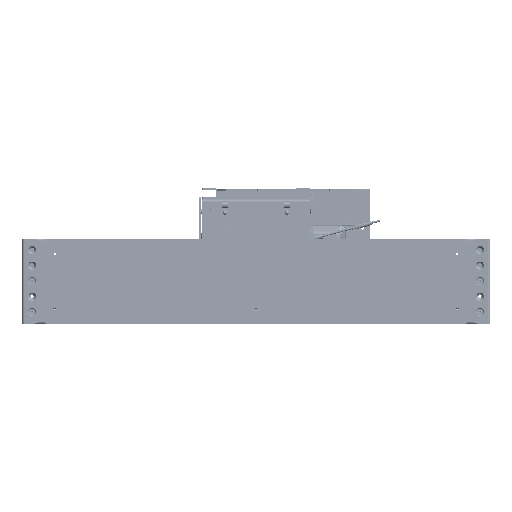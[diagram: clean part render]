
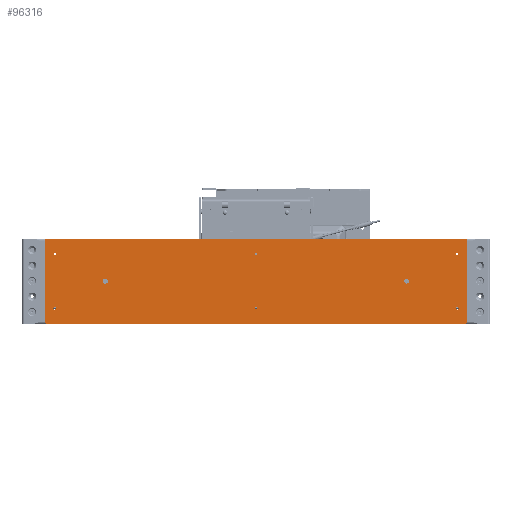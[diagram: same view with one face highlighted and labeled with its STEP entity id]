
A CAD part, top view. The second image highlights one B-rep face of the part: STEP entity #96316.
In plain terms, the highlighted planar face has unit normal (0, 0, 1) as drawn and (0, -1, 0) by its records, which use the part's own axes.
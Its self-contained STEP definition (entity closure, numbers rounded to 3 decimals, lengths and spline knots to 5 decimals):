
#12653=LINE('',#154286,#19884);
#12654=LINE('',#154291,#19885);
#12655=LINE('',#154295,#19886);
#12656=LINE('',#154299,#19887);
#19884=VECTOR('',#126031,1.);
#19885=VECTOR('',#126034,1.);
#19886=VECTOR('',#126037,1.);
#19887=VECTOR('',#126040,1.);
#36897=ORIENTED_EDGE('',*,*,#57245,.F.);
#36898=ORIENTED_EDGE('',*,*,#57246,.T.);
#36899=ORIENTED_EDGE('',*,*,#57247,.F.);
#36900=ORIENTED_EDGE('',*,*,#57248,.T.);
#36901=ORIENTED_EDGE('',*,*,#57249,.T.);
#36902=ORIENTED_EDGE('',*,*,#57250,.T.);
#36903=ORIENTED_EDGE('',*,*,#57251,.T.);
#36904=ORIENTED_EDGE('',*,*,#57252,.T.);
#36905=ORIENTED_EDGE('',*,*,#57244,.F.);
#36906=ORIENTED_EDGE('',*,*,#57242,.F.);
#36907=ORIENTED_EDGE('',*,*,#57240,.F.);
#36908=ORIENTED_EDGE('',*,*,#57237,.F.);
#36909=ORIENTED_EDGE('',*,*,#57234,.F.);
#36910=ORIENTED_EDGE('',*,*,#57231,.F.);
#36911=ORIENTED_EDGE('',*,*,#57228,.F.);
#36912=ORIENTED_EDGE('',*,*,#57225,.F.);
#57225=EDGE_CURVE('',#68689,#68689,#75302,.T.);
#57228=EDGE_CURVE('',#68692,#68692,#75305,.T.);
#57231=EDGE_CURVE('',#68695,#68695,#75308,.T.);
#57234=EDGE_CURVE('',#68698,#68698,#75311,.T.);
#57237=EDGE_CURVE('',#68701,#68701,#75314,.T.);
#57240=EDGE_CURVE('',#68704,#68704,#75317,.T.);
#57242=EDGE_CURVE('',#68706,#68706,#75319,.T.);
#57244=EDGE_CURVE('',#68708,#68708,#75321,.T.);
#57245=EDGE_CURVE('',#68709,#68710,#12653,.T.);
#57246=EDGE_CURVE('',#68709,#68711,#75322,.T.);
#57247=EDGE_CURVE('',#68712,#68711,#12654,.T.);
#57248=EDGE_CURVE('',#68712,#68713,#75323,.T.);
#57249=EDGE_CURVE('',#68713,#68714,#12655,.T.);
#57250=EDGE_CURVE('',#68714,#68715,#75324,.T.);
#57251=EDGE_CURVE('',#68715,#68716,#12656,.T.);
#57252=EDGE_CURVE('',#68716,#68710,#75325,.T.);
#68689=VERTEX_POINT('',#154234);
#68692=VERTEX_POINT('',#154242);
#68695=VERTEX_POINT('',#154250);
#68698=VERTEX_POINT('',#154258);
#68701=VERTEX_POINT('',#154266);
#68704=VERTEX_POINT('',#154274);
#68706=VERTEX_POINT('',#154279);
#68708=VERTEX_POINT('',#154284);
#68709=VERTEX_POINT('',#154287);
#68710=VERTEX_POINT('',#154288);
#68711=VERTEX_POINT('',#154290);
#68712=VERTEX_POINT('',#154292);
#68713=VERTEX_POINT('',#154294);
#68714=VERTEX_POINT('',#154296);
#68715=VERTEX_POINT('',#154298);
#68716=VERTEX_POINT('',#154300);
#75302=CIRCLE('',#107568,0.00225);
#75305=CIRCLE('',#107573,0.00225);
#75308=CIRCLE('',#107578,0.00225);
#75311=CIRCLE('',#107583,0.00225);
#75314=CIRCLE('',#107588,0.00225);
#75317=CIRCLE('',#107593,0.00225);
#75319=CIRCLE('',#107596,0.00396);
#75321=CIRCLE('',#107599,0.00396);
#75322=CIRCLE('',#107601,0.00318);
#75323=CIRCLE('',#107602,0.00318);
#75324=CIRCLE('',#107603,0.00318);
#75325=CIRCLE('',#107604,0.00318);
#80459=EDGE_LOOP('',(#36897,#36898,#36899,#36900,#36901,#36902,#36903,#36904));
#80460=EDGE_LOOP('',(#36905));
#80461=EDGE_LOOP('',(#36906));
#80462=EDGE_LOOP('',(#36907));
#80463=EDGE_LOOP('',(#36908));
#80464=EDGE_LOOP('',(#36909));
#80465=EDGE_LOOP('',(#36910));
#80466=EDGE_LOOP('',(#36911));
#80467=EDGE_LOOP('',(#36912));
#87462=FACE_BOUND('',#80459,.T.);
#87463=FACE_BOUND('',#80460,.T.);
#87464=FACE_BOUND('',#80461,.T.);
#87465=FACE_BOUND('',#80462,.T.);
#87466=FACE_BOUND('',#80463,.T.);
#87467=FACE_BOUND('',#80464,.T.);
#87468=FACE_BOUND('',#80465,.T.);
#87469=FACE_BOUND('',#80466,.T.);
#87470=FACE_BOUND('',#80467,.T.);
#92549=PLANE('',#107600);
#96316=ADVANCED_FACE('',(#87462,#87463,#87464,#87465,#87466,#87467,#87468,
#87469,#87470),#92549,.T.);
#107568=AXIS2_PLACEMENT_3D('',#154233,#125965,#125966);
#107573=AXIS2_PLACEMENT_3D('',#154241,#125975,#125976);
#107578=AXIS2_PLACEMENT_3D('',#154249,#125985,#125986);
#107583=AXIS2_PLACEMENT_3D('',#154257,#125995,#125996);
#107588=AXIS2_PLACEMENT_3D('',#154265,#126005,#126006);
#107593=AXIS2_PLACEMENT_3D('',#154273,#126015,#126016);
#107596=AXIS2_PLACEMENT_3D('',#154278,#126021,#126022);
#107599=AXIS2_PLACEMENT_3D('',#154283,#126027,#126028);
#107600=AXIS2_PLACEMENT_3D('',#154285,#126029,#126030);
#107601=AXIS2_PLACEMENT_3D('',#154289,#126032,#126033);
#107602=AXIS2_PLACEMENT_3D('',#154293,#126035,#126036);
#107603=AXIS2_PLACEMENT_3D('',#154297,#126038,#126039);
#107604=AXIS2_PLACEMENT_3D('',#154301,#126041,#126042);
#125965=DIRECTION('',(0.,-1.,0.));
#125966=DIRECTION('',(1.,0.,0.));
#125975=DIRECTION('',(0.,-1.,0.));
#125976=DIRECTION('',(1.,0.,0.));
#125985=DIRECTION('',(0.,-1.,0.));
#125986=DIRECTION('',(1.,0.,0.));
#125995=DIRECTION('',(0.,-1.,0.));
#125996=DIRECTION('',(1.,0.,0.));
#126005=DIRECTION('',(0.,-1.,0.));
#126006=DIRECTION('',(1.,0.,0.));
#126015=DIRECTION('',(0.,-1.,0.));
#126016=DIRECTION('',(1.,0.,0.));
#126021=DIRECTION('',(0.,-1.,0.));
#126022=DIRECTION('',(1.,0.,0.));
#126027=DIRECTION('',(0.,-1.,0.));
#126028=DIRECTION('',(1.,0.,0.));
#126029=DIRECTION('',(0.,-1.,0.));
#126030=DIRECTION('',(1.,0.,0.));
#126031=DIRECTION('',(0.,0.,1.));
#126032=DIRECTION('',(0.,-1.,0.));
#126033=DIRECTION('',(1.,0.,0.));
#126034=DIRECTION('',(-1.,0.,0.));
#126035=DIRECTION('',(0.,-1.,0.));
#126036=DIRECTION('',(1.,0.,0.));
#126037=DIRECTION('',(0.,0.,1.));
#126038=DIRECTION('',(0.,-1.,0.));
#126039=DIRECTION('',(1.,0.,0.));
#126040=DIRECTION('',(-1.,0.,0.));
#126041=DIRECTION('',(0.,-1.,0.));
#126042=DIRECTION('',(1.,0.,0.));
#154233=CARTESIAN_POINT('',(0.62548,-0.76109,-0.05766));
#154234=CARTESIAN_POINT('',(0.62772,-0.76109,-0.05766));
#154241=CARTESIAN_POINT('',(0.29528,-0.76109,-0.05766));
#154242=CARTESIAN_POINT('',(0.29752,-0.76109,-0.05766));
#154249=CARTESIAN_POINT('',(0.29528,-0.76109,-0.14656));
#154250=CARTESIAN_POINT('',(0.29752,-0.76109,-0.14656));
#154257=CARTESIAN_POINT('',(-0.03493,-0.76109,-0.05766));
#154258=CARTESIAN_POINT('',(-0.03268,-0.76109,-0.05766));
#154265=CARTESIAN_POINT('',(0.62548,-0.76109,-0.14656));
#154266=CARTESIAN_POINT('',(0.62772,-0.76109,-0.14656));
#154273=CARTESIAN_POINT('',(-0.03493,-0.76109,-0.14656));
#154274=CARTESIAN_POINT('',(-0.03268,-0.76109,-0.14656));
#154278=CARTESIAN_POINT('',(0.54242,-0.76109,-0.10211));
#154279=CARTESIAN_POINT('',(0.54638,-0.76109,-0.10211));
#154283=CARTESIAN_POINT('',(0.04813,-0.76109,-0.10211));
#154284=CARTESIAN_POINT('',(0.0521,-0.76109,-0.10211));
#154285=CARTESIAN_POINT('',(0.29528,-0.76109,-0.10211));
#154286=CARTESIAN_POINT('',(-0.0508,-0.76109,-0.10211));
#154287=CARTESIAN_POINT('',(-0.0508,-0.76109,-0.16878));
#154288=CARTESIAN_POINT('',(-0.0508,-0.76109,-0.03543));
#154289=CARTESIAN_POINT('',(-0.04763,-0.76109,-0.16878));
#154290=CARTESIAN_POINT('',(-0.04763,-0.76109,-0.17196));
#154291=CARTESIAN_POINT('',(0.29528,-0.76109,-0.17196));
#154292=CARTESIAN_POINT('',(0.63818,-0.76109,-0.17196));
#154293=CARTESIAN_POINT('',(0.63818,-0.76109,-0.16878));
#154294=CARTESIAN_POINT('',(0.64135,-0.76109,-0.16878));
#154295=CARTESIAN_POINT('',(0.64135,-0.76109,-0.10211));
#154296=CARTESIAN_POINT('',(0.64135,-0.76109,-0.03543));
#154297=CARTESIAN_POINT('',(0.63818,-0.76109,-0.03543));
#154298=CARTESIAN_POINT('',(0.63818,-0.76109,-0.03226));
#154299=CARTESIAN_POINT('',(0.29528,-0.76109,-0.03226));
#154300=CARTESIAN_POINT('',(-0.04763,-0.76109,-0.03226));
#154301=CARTESIAN_POINT('',(-0.04763,-0.76109,-0.03543));
